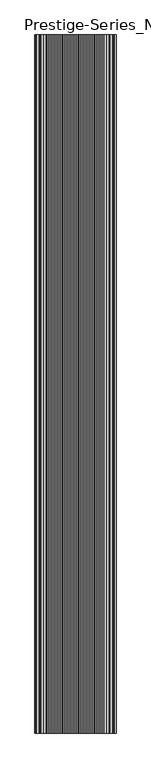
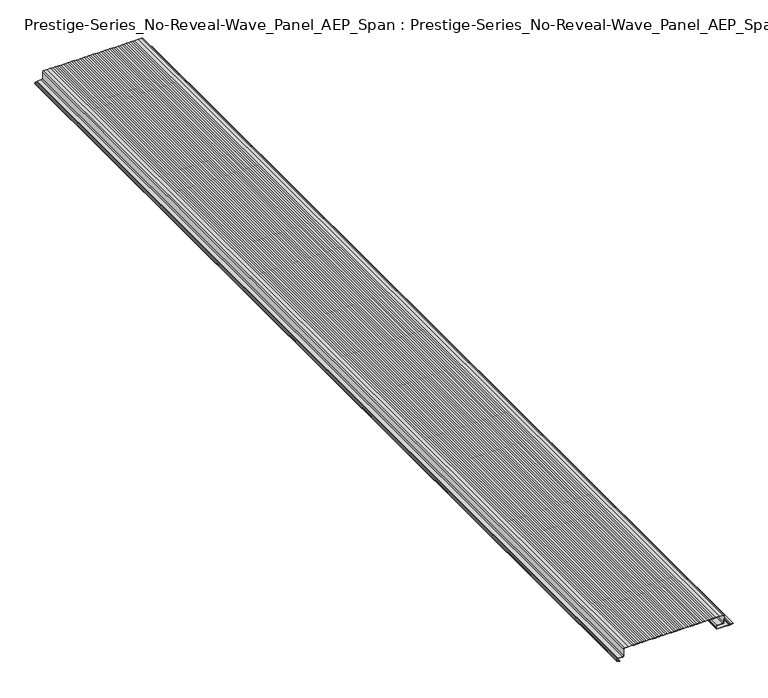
"""IFC4 building model written with IfcOpenShell, lengths in millimetres: proxy geometry, Prestige-Series_No-Reveal-Wave_Panel_AEP_Span : Prestige-Series_No-Reveal-Wave_Panel_AEP_Span."""

from ifc_helpers import new_model, si_unit, frame, origin, place, context, project, spatial, polyline, circle_curve, source, transform, mapped, element, save
from ifc_brep_helpers import plane_surface, cylinder_surface, revolved_surface, advanced_brep


def prestige_series_no_reveal_wave_panel_aep_span_prestige_fcddb1ef(model_context):
    return source(origin(), model_context, "Body", "AdvancedBrep", [
        advanced_brep(
        [(-173.3547211, -3048.0, 3.7242703), (-164.0843346, -3048.0, 0.5644947), (-163.794247, -3048.0, 1.4155751), (-173.0646336, -3048.0, 4.5753508), (-174.5233445, -3048.0, 6.6828416), (-173.0939681, -3048.0, 8.7773217), (-170.2112258, -3048.0, 9.8066494), (-168.3761786, -3048.0, 10.12444), (-155.8368238, -3048.0, 10.12444), (-151.5083197, -3048.0, 14.2412483), (-151.4934924, -3048.0, 33.9789394), (-148.4689658, -3048.0, 37.2008494), (-140.9601251, -3048.0, 37.2008494), (-126.9403091, -3048.0, 37.20084), (-120.5831866, -3048.0, 36.5397007), (-114.2331865, -3048.0, 37.2000979), (-107.8831865, -3048.0, 36.5397007), (-101.5331865, -3048.0, 37.2000979), (-95.1831865, -3048.0, 36.5397007), (-88.8331865, -3048.0, 37.2000979), (-82.4831865, -3048.0, 36.5397007), (-76.1331865, -3048.0, 37.2000979), (-69.7831865, -3048.0, 36.5397007), (-63.4331865, -3048.0, 37.2000979), (-57.0831865, -3048.0, 36.5397007), (-50.7331865, -3048.0, 37.2000979), (-44.3831865, -3048.0, 36.5397007), (-38.0331865, -3048.0, 37.2000979), (-31.6831865, -3048.0, 36.5397007), (-25.3331865, -3048.0, 37.2000979), (-19.0131127, -3048.0, 36.542813), (-12.6631123, -3048.0, 37.2032102), (-6.3128478, -3048.0, 36.5427835), (0.0668183, -3048.0, 37.2143006), (6.4462401, -3048.0, 36.5427857), (12.7667934, -3048.0, 37.2001), (19.1168135, -3048.0, 36.5397007), (25.4668135, -3048.0, 37.2000979), (31.8168135, -3048.0, 36.5397007), (38.1668135, -3048.0, 37.2000979), (44.5168135, -3048.0, 36.5397007), (50.8668135, -3048.0, 37.2000979), (57.2168135, -3048.0, 36.5397007), (63.5668135, -3048.0, 37.2000979), (69.9168135, -3048.0, 36.5397007), (76.2668135, -3048.0, 37.2000979), (82.6168135, -3048.0, 36.5397007), (88.9668135, -3048.0, 37.2000979), (95.3168135, -3048.0, 36.5397007), (101.6668135, -3048.0, 37.2000979), (108.0168135, -3048.0, 36.5397007), (114.3668135, -3048.0, 37.2000979), (120.7168141, -3048.0, 36.5397007), (127.0739185, -3048.0, 37.20084), (138.5429104, -3048.0, 37.20084), (148.4540042, -3048.0, 37.20084), (151.4938626, -3048.0, 33.9974885), (150.4907645, -3048.0, 14.8582693), (147.4509066, -3048.0, 11.97356), (131.7216484, -3048.0, 11.97356), (127.6536799, -3048.0, 7.9055915), (127.6536799, -3048.0, 3.9308085), (131.7216484, -3048.0, -0.13716), (165.2164818, -3048.0, -0.13716), (166.7747019, -3048.0, -0.7731706), (168.6602599, -3048.0, -0.7731706), (170.21848, -3048.0, -0.13716), (174.2421311, -3048.0, -0.13716), (178.968983, -3048.0, 1.1293858), (178.736265, -3048.0, 1.9979081), (174.1237554, -3048.0, 0.762), (170.0420429, -3048.0, 0.762), (168.3228086, -3048.0, 0.0602691), (167.1121532, -3048.0, 0.0602691), (165.3929189, -3048.0, 0.762), (131.7278397, -3048.0, 0.762), (128.5528399, -3048.0, 3.9369998), (128.5528399, -3048.0, 7.8994002), (131.7278397, -3048.0, 11.0744), (147.4567819, -3048.0, 11.0744), (151.3883846, -3048.0, 14.8053411), (152.3921317, -3048.0, 33.9569429), (148.4605284, -3048.0, 38.1), (138.0086514, -3048.0, 38.1), (127.0272879, -3048.0, 38.1), (120.7168139, -3048.0, 37.4437102), (114.3668135, -3048.0, 38.1041074), (108.0168135, -3048.0, 37.4437103), (101.6668135, -3048.0, 38.1041074), (95.3168135, -3048.0, 37.4437103), (88.9668135, -3048.0, 38.1041074), (82.6168135, -3048.0, 37.4437103), (76.2668135, -3048.0, 38.1041074), (69.9168135, -3048.0, 37.4437103), (63.5668135, -3048.0, 38.1041074), (57.2168135, -3048.0, 37.4437103), (50.8668135, -3048.0, 38.1041074), (44.5168135, -3048.0, 37.4437103), (38.1668135, -3048.0, 38.1041074), (31.8168135, -3048.0, 37.4437103), (25.4668135, -3048.0, 38.1041074), (19.1168135, -3048.0, 37.4437103), (12.7667948, -3048.0, 38.1041094), (6.4170563, -3048.0, 37.4437599), (0.0668199, -3048.0, 38.1122027), (-6.2836608, -3048.0, 37.4437576), (-12.6331861, -3048.0, 38.1041075), (-18.9831865, -3048.0, 37.4437103), (-25.3331865, -3048.0, 38.1041074), (-31.6831865, -3048.0, 37.4437103), (-38.0331865, -3048.0, 38.1041074), (-44.3831865, -3048.0, 37.4437103), (-50.7331865, -3048.0, 38.1041074), (-57.0831865, -3048.0, 37.4437103), (-63.4331865, -3048.0, 38.1041074), (-69.7831865, -3048.0, 37.4437103), (-76.1331865, -3048.0, 38.1041074), (-82.4831865, -3048.0, 37.4437103), (-88.8331865, -3048.0, 38.1041074), (-95.1831865, -3048.0, 37.4437103), (-101.5331865, -3048.0, 38.1041074), (-107.8831865, -3048.0, 37.4437103), (-114.2331865, -3048.0, 38.1041074), (-120.5831866, -3048.0, 37.4437102), (-126.8936784, -3048.0, 38.1), (-139.1313617, -3048.0, 38.1), (-148.4689632, -3048.0, 38.1), (-152.3924992, -3048.0, 34.1794109), (-152.4074863, -3048.0, 14.2327776), (-155.8483231, -3048.0, 11.0236), (-168.3772508, -3048.0, 11.0236), (-170.5125782, -3048.0, 10.6538074), (-173.3963302, -3048.0, 9.6241191), (-175.4185197, -3048.0, 6.6814543), (-173.3547211, 0.0, 3.7242703), (-175.4185197, 0.0, 6.6814543), (-173.3963302, 0.0, 9.6241191), (-170.5125782, 0.0, 10.6538074), (-168.3772508, 0.0, 11.0236), (-155.8483231, 0.0, 11.0236), (-152.4074863, 0.0, 14.2327776), (-152.3924992, 0.0, 34.1794109), (-148.4689632, 0.0, 38.1), (-139.1313617, 0.0, 38.1), (-126.8936784, 0.0, 38.1), (-120.5831866, 0.0, 37.4437102), (-114.2331865, 0.0, 38.1041074), (-107.8831865, 0.0, 37.4437103), (-101.5331865, 0.0, 38.1041074), (-95.1831865, 0.0, 37.4437103), (-88.8331865, 0.0, 38.1041074), (-82.4831865, 0.0, 37.4437103), (-76.1331865, 0.0, 38.1041074), (-69.7831865, 0.0, 37.4437103), (-63.4331865, 0.0, 38.1041074), (-57.0831865, 0.0, 37.4437103), (-50.7331865, 0.0, 38.1041074), (-44.3831865, 0.0, 37.4437103), (-38.0331865, 0.0, 38.1041074), (-31.6831865, 0.0, 37.4437103), (-25.3331865, 0.0, 38.1041074), (-18.9831865, 0.0, 37.4437103), (-12.6331861, 0.0, 38.1041075), (-6.2836608, 0.0, 37.4437576), (0.0668199, 0.0, 38.1122027), (6.4170563, 0.0, 37.4437599), (12.7667948, 0.0, 38.1041094), (19.1168135, 0.0, 37.4437103), (25.4668135, 0.0, 38.1041074), (31.8168135, 0.0, 37.4437103), (38.1668135, 0.0, 38.1041074), (44.5168135, 0.0, 37.4437103), (50.8668135, 0.0, 38.1041074), (57.2168135, 0.0, 37.4437103), (63.5668135, 0.0, 38.1041074), (69.9168135, 0.0, 37.4437103), (76.2668135, 0.0, 38.1041074), (82.6168135, 0.0, 37.4437103), (88.9668135, 0.0, 38.1041074), (95.3168135, 0.0, 37.4437103), (101.6668135, 0.0, 38.1041074), (108.0168135, 0.0, 37.4437103), (114.3668135, 0.0, 38.1041074), (120.7168139, 0.0, 37.4437102), (127.0272879, 0.0, 38.1), (138.0086514, 0.0, 38.1), (148.4605284, 0.0, 38.1), (152.3921317, 0.0, 33.9569429), (151.3883846, 0.0, 14.8053411), (147.4567819, 0.0, 11.0744), (131.7278397, 0.0, 11.0744), (128.5528399, 0.0, 7.8994002), (128.5528399, 0.0, 3.9369998), (131.7278397, 0.0, 0.762), (165.3929189, 0.0, 0.762), (167.1121532, 0.0, 0.0602691), (168.3228086, 0.0, 0.0602691), (170.0420429, 0.0, 0.762), (174.1237554, 0.0, 0.762), (178.736265, 0.0, 1.9979081), (178.968983, 0.0, 1.1293858), (174.2421311, 0.0, -0.13716), (170.21848, 0.0, -0.13716), (168.6602599, 0.0, -0.7731706), (166.7747019, 0.0, -0.7731706), (165.2164818, 0.0, -0.13716), (131.7216484, 0.0, -0.13716), (127.6536799, 0.0, 3.9308085), (127.6536799, 0.0, 7.9055915), (131.7216484, 0.0, 11.97356), (147.4509066, 0.0, 11.97356), (150.4907645, 0.0, 14.8582693), (151.4938626, 0.0, 33.9974885), (148.4540042, 0.0, 37.20084), (138.5429104, 0.0, 37.20084), (127.0739185, 0.0, 37.20084), (120.7168141, 0.0, 36.5397007), (114.3668135, 0.0, 37.2000979), (108.0168135, 0.0, 36.5397007), (101.6668135, 0.0, 37.2000979), (95.3168135, 0.0, 36.5397007), (88.9668135, 0.0, 37.2000979), (82.6168135, 0.0, 36.5397007), (76.2668135, 0.0, 37.2000979), (69.9168135, 0.0, 36.5397007), (63.5668135, 0.0, 37.2000979), (57.2168135, 0.0, 36.5397007), (50.8668135, 0.0, 37.2000979), (44.5168135, 0.0, 36.5397007), (38.1668135, 0.0, 37.2000979), (31.8168135, 0.0, 36.5397007), (25.4668135, 0.0, 37.2000979), (19.1168135, 0.0, 36.5397007), (12.7667934, 0.0, 37.2001), (6.4462401, 0.0, 36.5427857), (0.0668183, 0.0, 37.2143006), (-6.3128478, 0.0, 36.5427835), (-12.6631123, 0.0, 37.2032102), (-19.0131127, 0.0, 36.542813), (-25.3331865, 0.0, 37.2000979), (-31.6831865, 0.0, 36.5397007), (-38.0331865, 0.0, 37.2000979), (-44.3831865, 0.0, 36.5397007), (-50.7331865, 0.0, 37.2000979), (-57.0831865, 0.0, 36.5397007), (-63.4331865, 0.0, 37.2000979), (-69.7831865, 0.0, 36.5397007), (-76.1331865, 0.0, 37.2000979), (-82.4831865, 0.0, 36.5397007), (-88.8331865, 0.0, 37.2000979), (-95.1831865, 0.0, 36.5397007), (-101.5331865, 0.0, 37.2000979), (-107.8831865, 0.0, 36.5397007), (-114.2331865, 0.0, 37.2000979), (-120.5831866, 0.0, 36.5397007), (-126.9403091, 0.0, 37.20084), (-140.9601251, 0.0, 37.20084), (-148.4689658, 0.0, 37.2008494), (-151.4934924, 0.0, 33.9789394), (-151.5083197, 0.0, 14.2412483), (-155.8368238, 0.0, 10.12444), (-168.3761786, 0.0, 10.12444), (-170.2112258, 0.0, 9.8066494), (-173.0939681, 0.0, 8.7773217), (-174.5233445, 0.0, 6.6828416), (-173.0646336, 0.0, 4.5753508), (-163.794247, 0.0, 1.4155751), (-164.0843346, 0.0, 0.5644947)],
        [
            (0, 1),
            (1, 2),
            (2, 3),
            (3, 4, circle_curve(frame((-172.369376, -3048.0, 6.6151497), z_axis=(0.0, 1.0, 0.0), x_axis=(1.0, 0.0, 0.0)), 2.155032)),
            (4, 5, circle_curve(frame((-172.3692918, -3048.0, 6.7477884), z_axis=(0.0, 1.0, 0.0), x_axis=(1.0, 0.0, 0.0)), 2.1550316)),
            (5, 6),
            (6, 7, circle_curve(frame((-168.3761786, -3048.0, 4.6674035), z_axis=(0.0, 1.0, 0.0), x_axis=(1.0, 0.0, 0.0)), 5.4570365)),
            (7, 8),
            (8, 9, circle_curve(frame((-155.9462867, -3048.0, 14.5734787), z_axis=(0.0, -1.0, 0.0), x_axis=(1.0, 0.0, 0.0)), 4.4503851)),
            (9, 10),
            (10, 11, circle_curve(frame((-148.4689658, -3048.0, 34.1702766), z_axis=(0.0, 1.0, 0.0), x_axis=(1.0, 0.0, 0.0)), 3.0305728)),
            (11, 12),
            (12, 13),
            (13, 14),
            (14, 15),
            (15, 16),
            (16, 17),
            (17, 18),
            (18, 19),
            (19, 20),
            (20, 21),
            (21, 22),
            (22, 23),
            (23, 24),
            (24, 25),
            (25, 26),
            (26, 27),
            (27, 28),
            (28, 29),
            (29, 30),
            (30, 31),
            (31, 32),
            (32, 33),
            (33, 34),
            (34, 35),
            (35, 36),
            (36, 37),
            (37, 38),
            (38, 39),
            (39, 40),
            (40, 41),
            (41, 42),
            (42, 43),
            (43, 44),
            (44, 45),
            (45, 46),
            (46, 47),
            (47, 48),
            (48, 49),
            (49, 50),
            (50, 51),
            (51, 52),
            (52, 53),
            (53, 54),
            (54, 55),
            (55, 56, circle_curve(frame((148.4540042, -3048.0, 34.1568093), z_axis=(0.0, 1.0, 0.0), x_axis=(1.0, 0.0, 0.0)), 3.0440307)),
            (56, 57),
            (57, 58, circle_curve(frame((147.4509066, -3048.0, 15.0175901), z_axis=(0.0, 1.0, 0.0), x_axis=(1.0, 0.0, 0.0)), 3.0440301)),
            (58, 59),
            (59, 60, circle_curve(frame((131.7216484, -3048.0, 7.9055915), z_axis=(0.0, -1.0, 0.0), x_axis=(1.0, 0.0, 0.0)), 4.0679685)),
            (60, 61),
            (61, 62, circle_curve(frame((131.7216484, -3048.0, 3.9308085), z_axis=(0.0, -1.0, 0.0), x_axis=(1.0, 0.0, 0.0)), 4.0679685)),
            (62, 63),
            (63, 64),
            (64, 65, circle_curve(frame((167.7174809, -3048.0, 1.5366294), z_axis=(0.0, -1.0, 0.0), x_axis=(1.0, 0.0, 0.0)), 2.4947962)),
            (65, 66),
            (66, 67),
            (67, 68),
            (68, 69),
            (69, 70),
            (70, 71),
            (71, 72),
            (72, 73, circle_curve(frame((167.7174809, -3048.0, 1.5433165), z_axis=(0.0, 1.0, 0.0), x_axis=(1.0, 0.0, 0.0)), 1.6018275)),
            (73, 74),
            (74, 75),
            (75, 76, circle_curve(frame((131.7278397, -3048.0, 3.9369998), z_axis=(0.0, 1.0, 0.0), x_axis=(1.0, 0.0, 0.0)), 3.1749998)),
            (76, 77),
            (77, 78, circle_curve(frame((131.7278397, -3048.0, 7.8994002), z_axis=(0.0, 1.0, 0.0), x_axis=(1.0, 0.0, 0.0)), 3.1749998)),
            (78, 79),
            (79, 80, circle_curve(frame((147.4567819, -3048.0, 15.0113988), z_axis=(0.0, -1.0, 0.0), x_axis=(1.0, 0.0, 0.0)), 3.9369988)),
            (80, 81),
            (81, 82, circle_curve(frame((148.4605284, -3048.0, 34.1630006), z_axis=(0.0, -1.0, 0.0), x_axis=(1.0, 0.0, 0.0)), 3.9369994)),
            (82, 83),
            (83, 84),
            (84, 85),
            (85, 86),
            (86, 87),
            (87, 88),
            (88, 89),
            (89, 90),
            (90, 91),
            (91, 92),
            (92, 93),
            (93, 94),
            (94, 95),
            (95, 96),
            (96, 97),
            (97, 98),
            (98, 99),
            (99, 100),
            (100, 101),
            (101, 102),
            (102, 103),
            (103, 104),
            (104, 105),
            (105, 106),
            (106, 107),
            (107, 108),
            (108, 109),
            (109, 110),
            (110, 111),
            (111, 112),
            (112, 113),
            (113, 114),
            (114, 115),
            (115, 116),
            (116, 117),
            (117, 118),
            (118, 119),
            (119, 120),
            (120, 121),
            (121, 122),
            (122, 123),
            (123, 124),
            (124, 125),
            (125, 126),
            (126, 127, circle_curve(frame((-148.4689632, -3048.0, 34.1764629), z_axis=(0.0, -1.0, 0.0), x_axis=(1.0, 0.0, 0.0)), 3.9235371)),
            (127, 128),
            (128, 129, circle_curve(frame((-155.94528, -3048.0, 14.576754), z_axis=(0.0, 1.0, 0.0), x_axis=(1.0, 0.0, 0.0)), 3.5544766)),
            (129, 130),
            (130, 131, circle_curve(frame((-168.3772508, -3048.0, 4.6735948), z_axis=(0.0, -1.0, 0.0), x_axis=(1.0, 0.0, 0.0)), 6.3500052)),
            (131, 132),
            (132, 133, circle_curve(frame((-172.3713738, -3048.0, 6.7536191), z_axis=(0.0, -1.0, 0.0), x_axis=(1.0, 0.0, 0.0)), 3.0480004)),
            (133, 0, circle_curve(frame((-172.3713734, -3048.0, 6.6092895), z_axis=(0.0, -1.0, 0.0), x_axis=(1.0, 0.0, 0.0)), 3.0480007)),
            (134, 135, circle_curve(frame((-172.3713734, 0.0, 6.6092895), z_axis=(0.0, 1.0, 0.0), x_axis=(1.0, 0.0, 0.0)), 3.0480007)),
            (135, 136, circle_curve(frame((-172.3713738, 0.0, 6.7536191), z_axis=(0.0, 1.0, 0.0), x_axis=(1.0, 0.0, 0.0)), 3.0480004)),
            (136, 137),
            (137, 138, circle_curve(frame((-168.3772508, 0.0, 4.6735948), z_axis=(0.0, 1.0, 0.0), x_axis=(1.0, 0.0, 0.0)), 6.3500052)),
            (138, 139),
            (139, 140, circle_curve(frame((-155.94528, 0.0, 14.576754), z_axis=(0.0, -1.0, 0.0), x_axis=(1.0, 0.0, 0.0)), 3.5544766)),
            (140, 141),
            (141, 142, circle_curve(frame((-148.4689632, 0.0, 34.1764629), z_axis=(0.0, 1.0, 0.0), x_axis=(1.0, 0.0, 0.0)), 3.9235371)),
            (142, 143),
            (143, 144),
            (144, 145),
            (145, 146),
            (146, 147),
            (147, 148),
            (148, 149),
            (149, 150),
            (150, 151),
            (151, 152),
            (152, 153),
            (153, 154),
            (154, 155),
            (155, 156),
            (156, 157),
            (157, 158),
            (158, 159),
            (159, 160),
            (160, 161),
            (161, 162),
            (162, 163),
            (163, 164),
            (164, 165),
            (165, 166),
            (166, 167),
            (167, 168),
            (168, 169),
            (169, 170),
            (170, 171),
            (171, 172),
            (172, 173),
            (173, 174),
            (174, 175),
            (175, 176),
            (176, 177),
            (177, 178),
            (178, 179),
            (179, 180),
            (180, 181),
            (181, 182),
            (182, 183),
            (183, 184),
            (184, 185),
            (185, 186),
            (186, 187, circle_curve(frame((148.4605284, 0.0, 34.1630006), z_axis=(0.0, 1.0, 0.0), x_axis=(1.0, 0.0, 0.0)), 3.9369994)),
            (187, 188),
            (188, 189, circle_curve(frame((147.4567819, 0.0, 15.0113988), z_axis=(0.0, 1.0, 0.0), x_axis=(1.0, 0.0, 0.0)), 3.9369988)),
            (189, 190),
            (190, 191, circle_curve(frame((131.7278397, 0.0, 7.8994002), z_axis=(0.0, -1.0, 0.0), x_axis=(1.0, 0.0, 0.0)), 3.1749998)),
            (191, 192),
            (192, 193, circle_curve(frame((131.7278397, 0.0, 3.9369998), z_axis=(0.0, -1.0, 0.0), x_axis=(1.0, 0.0, 0.0)), 3.1749998)),
            (193, 194),
            (194, 195),
            (195, 196, circle_curve(frame((167.7174809, 0.0, 1.5433165), z_axis=(0.0, -1.0, 0.0), x_axis=(1.0, 0.0, 0.0)), 1.6018275)),
            (196, 197),
            (197, 198),
            (198, 199),
            (199, 200),
            (200, 201),
            (201, 202),
            (202, 203),
            (203, 204, circle_curve(frame((167.7174809, 0.0, 1.5366294), z_axis=(0.0, 1.0, 0.0), x_axis=(1.0, 0.0, 0.0)), 2.4947962)),
            (204, 205),
            (205, 206),
            (206, 207, circle_curve(frame((131.7216484, 0.0, 3.9308085), z_axis=(0.0, 1.0, 0.0), x_axis=(1.0, 0.0, 0.0)), 4.0679685)),
            (207, 208),
            (208, 209, circle_curve(frame((131.7216484, 0.0, 7.9055915), z_axis=(0.0, 1.0, 0.0), x_axis=(1.0, 0.0, 0.0)), 4.0679685)),
            (209, 210),
            (210, 211, circle_curve(frame((147.4509066, 0.0, 15.0175901), z_axis=(0.0, -1.0, 0.0), x_axis=(1.0, 0.0, 0.0)), 3.0440301)),
            (211, 212),
            (212, 213, circle_curve(frame((148.4540042, 0.0, 34.1568093), z_axis=(0.0, -1.0, 0.0), x_axis=(1.0, 0.0, 0.0)), 3.0440307)),
            (213, 214),
            (214, 215),
            (215, 216),
            (216, 217),
            (217, 218),
            (218, 219),
            (219, 220),
            (220, 221),
            (221, 222),
            (222, 223),
            (223, 224),
            (224, 225),
            (225, 226),
            (226, 227),
            (227, 228),
            (228, 229),
            (229, 230),
            (230, 231),
            (231, 232),
            (232, 233),
            (233, 234),
            (234, 235),
            (235, 236),
            (236, 237),
            (237, 238),
            (238, 239),
            (239, 240),
            (240, 241),
            (241, 242),
            (242, 243),
            (243, 244),
            (244, 245),
            (245, 246),
            (246, 247),
            (247, 248),
            (248, 249),
            (249, 250),
            (250, 251),
            (251, 252),
            (252, 253),
            (253, 254),
            (254, 255),
            (255, 256),
            (256, 257),
            (257, 258, circle_curve(frame((-148.4689658, 0.0, 34.1702766), z_axis=(0.0, -1.0, 0.0), x_axis=(1.0, 0.0, 0.0)), 3.0305728)),
            (258, 259),
            (259, 260, circle_curve(frame((-155.9462867, 0.0, 14.5734787), z_axis=(0.0, 1.0, 0.0), x_axis=(1.0, 0.0, 0.0)), 4.4503851)),
            (260, 261),
            (261, 262, circle_curve(frame((-168.3761786, 0.0, 4.6674035), z_axis=(0.0, -1.0, 0.0), x_axis=(1.0, 0.0, 0.0)), 5.4570365)),
            (262, 263),
            (263, 264, circle_curve(frame((-172.3692918, 0.0, 6.7477884), z_axis=(0.0, -1.0, 0.0), x_axis=(1.0, 0.0, 0.0)), 2.1550316)),
            (264, 265, circle_curve(frame((-172.369376, 0.0, 6.6151497), z_axis=(0.0, -1.0, 0.0), x_axis=(1.0, 0.0, 0.0)), 2.155032)),
            (265, 266),
            (266, 267),
            (267, 134),
            (0, 134),
            (267, 1),
            (266, 2),
            (265, 3),
            (264, 4),
            (263, 5),
            (262, 6),
            (261, 7),
            (260, 8),
            (259, 9),
            (10, 258),
            (257, 11),
            (54, 214),
            (213, 55),
            (212, 56),
            (211, 57),
            (210, 58),
            (209, 59),
            (208, 60),
            (207, 61),
            (206, 62),
            (205, 63),
            (204, 64),
            (203, 65),
            (202, 66),
            (201, 67),
            (200, 68),
            (199, 69),
            (198, 70),
            (197, 71),
            (196, 72),
            (195, 73),
            (194, 74),
            (193, 75),
            (192, 76),
            (191, 77),
            (190, 78),
            (189, 79),
            (188, 80),
            (187, 81),
            (186, 82),
            (125, 143),
            (142, 126),
            (141, 127),
            (140, 128),
            (139, 129),
            (138, 130),
            (137, 131),
            (136, 132),
            (135, 133),
            (256, 12),
            (255, 13),
            (254, 14),
            (253, 15),
            (252, 16),
            (251, 17),
            (250, 18),
            (249, 19),
            (248, 20),
            (247, 21),
            (246, 22),
            (245, 23),
            (244, 24),
            (243, 25),
            (242, 26),
            (241, 27),
            (240, 28),
            (239, 29),
            (238, 30),
            (237, 31),
            (236, 32),
            (235, 33),
            (234, 34),
            (233, 35),
            (232, 36),
            (231, 37),
            (230, 38),
            (229, 39),
            (228, 40),
            (227, 41),
            (226, 42),
            (225, 43),
            (224, 44),
            (223, 45),
            (222, 46),
            (221, 47),
            (220, 48),
            (219, 49),
            (218, 50),
            (217, 51),
            (216, 52),
            (215, 53),
            (185, 83),
            (184, 84),
            (183, 85),
            (182, 86),
            (181, 87),
            (180, 88),
            (179, 89),
            (178, 90),
            (177, 91),
            (176, 92),
            (175, 93),
            (174, 94),
            (173, 95),
            (172, 96),
            (171, 97),
            (170, 98),
            (169, 99),
            (168, 100),
            (167, 101),
            (166, 102),
            (165, 103),
            (164, 104),
            (163, 105),
            (162, 106),
            (161, 107),
            (160, 108),
            (159, 109),
            (158, 110),
            (157, 111),
            (156, 112),
            (155, 113),
            (154, 114),
            (153, 115),
            (152, 116),
            (151, 117),
            (150, 118),
            (149, 119),
            (148, 120),
            (147, 121),
            (146, 122),
            (145, 123),
            (144, 124),
        ],
        [
            plane_surface(frame((-164.0843346, -3048.0, 0.5644947), z_axis=(0.0, -1.0, 0.0), x_axis=(0.9465283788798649, 0.0, -0.32262056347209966))),
            plane_surface(frame((-164.0843346, 0.0, 0.5644947), z_axis=(0.0, 1.0, 0.0), x_axis=(-0.9465283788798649, 0.0, 0.32262056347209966))),
            plane_surface(frame((-173.3547211, -3048.0, 3.7242703), z_axis=(-0.32262056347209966, 0.0, -0.9465283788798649), x_axis=(0.0, 1.0, 0.0))),
            plane_surface(frame((-164.0843346, -3048.0, 0.5644947), z_axis=(0.9465283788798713, 0.0, -0.32262056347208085), x_axis=(0.0, 1.0, 0.0))),
            plane_surface(frame((-163.794247, -3048.0, 1.4155751), z_axis=(0.3226205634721, 0.0, 0.9465283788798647), x_axis=(0.0, 1.0, 0.0))),
            revolved_surface(polyline([(-170.21434399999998, 0.0, 6.6151497), (-170.21434399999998, -3048.0, 6.6151497)]), (-172.369376, 0.0, 6.6151497), (0.0, 1.0, 0.0)),
            revolved_surface(polyline([(-170.2142602, 0.0, 6.7477884), (-170.2142602, -3048.0, 6.7477884)]), (-172.3692918, 0.0, 6.7477884), (0.0, 1.0, 0.0)),
            plane_surface(frame((-173.0939681, -3048.0, 8.7773217), z_axis=(0.3362717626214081, 0.0, -0.9417649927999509), x_axis=(0.0, 1.0, 0.0))),
            revolved_surface(polyline([(-162.91914210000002, 0.0, 4.6674035), (-162.91914210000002, -3048.0, 4.6674035)]), (-168.3761786, 0.0, 4.6674035), (0.0, 1.0, 0.0)),
            plane_surface(frame((-168.3761786, -3048.0, 10.12444), z_axis=(0.0, 0.0, -1.0), x_axis=(0.0, 1.0, 0.0))),
            cylinder_surface(frame((-155.9462867, 0.0, 14.5734787), z_axis=(0.0, -1.0, 0.0), x_axis=(1.0, 0.0, 0.0)), 4.4503851),
            revolved_surface(polyline([(-145.43839300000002, 0.0, 34.1702766), (-145.43839300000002, -3048.0, 34.1702766)]), (-148.4689658, 0.0, 34.1702766), (0.0, 1.0, 0.0)),
            plane_surface(frame((138.5429104, -3048.0, 37.20084), z_axis=(0.0, 0.0, -1.0), x_axis=(0.0, 1.0, 0.0))),
            revolved_surface(polyline([(151.49803490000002, 0.0, 34.1568093), (151.49803490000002, -3048.0, 34.1568093)]), (148.4540042, 0.0, 34.1568093), (0.0, 1.0, 0.0)),
            plane_surface(frame((151.4938626, -3048.0, 33.9974885), z_axis=(-0.9986293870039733, 0.0, 0.05233877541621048), x_axis=(0.0, 1.0, 0.0))),
            revolved_surface(polyline([(150.49493669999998, 0.0, 15.0175901), (150.49493669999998, -3048.0, 15.0175901)]), (147.4509066, 0.0, 15.0175901), (0.0, 1.0, 0.0)),
            plane_surface(frame((147.4509066, -3048.0, 11.97356), z_axis=(0.0, 0.0, 1.0), x_axis=(0.0, 1.0, 0.0))),
            cylinder_surface(frame((131.7216484, 0.0, 7.9055915), z_axis=(0.0, -1.0, 0.0), x_axis=(1.0, 0.0, 0.0)), 4.0679685),
            plane_surface(frame((127.6536799, -3048.0, 7.9055915), z_axis=(-1.0, 0.0, 0.0), x_axis=(0.0, 1.0, 0.0))),
            cylinder_surface(frame((131.7216484, 0.0, 3.9308085), z_axis=(0.0, -1.0, 0.0), x_axis=(1.0, 0.0, 0.0)), 4.0679685),
            plane_surface(frame((131.7216484, -3048.0, -0.13716), z_axis=(0.0, 0.0, -1.0), x_axis=(0.0, 1.0, 0.0))),
            plane_surface(frame((165.2164818, -3048.0, -0.13716), z_axis=(-0.3778982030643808, 0.0, -0.9258471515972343), x_axis=(0.0, 1.0, 0.0))),
            cylinder_surface(frame((167.7174809, 0.0, 1.5366294), z_axis=(0.0, -1.0, 0.0), x_axis=(1.0, 0.0, 0.0)), 2.4947962),
            plane_surface(frame((168.6602599, -3048.0, -0.7731706), z_axis=(0.3778982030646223, 0.0, -0.9258471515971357), x_axis=(0.0, 1.0, 0.0))),
            plane_surface(frame((170.21848, -3048.0, -0.13716), z_axis=(0.0, 0.0, -1.0), x_axis=(0.0, 1.0, 0.0))),
            plane_surface(frame((174.2421311, -3048.0, -0.13716), z_axis=(0.25881706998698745, 0.0, -0.965926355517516), x_axis=(0.0, 1.0, 0.0))),
            plane_surface(frame((178.968983, -3048.0, 1.1293858), z_axis=(0.965926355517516, 0.0, 0.2588170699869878), x_axis=(0.0, 1.0, 0.0))),
            plane_surface(frame((178.736265, -3048.0, 1.9979081), z_axis=(-0.258817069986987, 0.0, 0.9659263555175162), x_axis=(0.0, 1.0, 0.0))),
            plane_surface(frame((174.1237554, -3048.0, 0.762), z_axis=(0.0, 0.0, 1.0), x_axis=(0.0, 1.0, 0.0))),
            plane_surface(frame((170.0420429, -3048.0, 0.762), z_axis=(-0.3778982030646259, 0.0, 0.9258471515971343), x_axis=(0.0, 1.0, 0.0))),
            revolved_surface(polyline([(169.3193084, 0.0, 1.5433165), (169.3193084, -3048.0, 1.5433165)]), (167.7174809, 0.0, 1.5433165), (0.0, 1.0, 0.0)),
            plane_surface(frame((167.1121532, -3048.0, 0.0602691), z_axis=(0.37789820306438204, 0.0, 0.9258471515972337), x_axis=(0.0, 1.0, 0.0))),
            plane_surface(frame((165.3929189, -3048.0, 0.762), z_axis=(0.0, 0.0, 1.0), x_axis=(0.0, 1.0, 0.0))),
            revolved_surface(polyline([(134.9028395, 0.0, 3.9369998), (134.9028395, -3048.0, 3.9369998)]), (131.7278397, 0.0, 3.9369998), (0.0, 1.0, 0.0)),
            plane_surface(frame((128.5528399, -3048.0, 3.9369998), z_axis=(1.0, 0.0, 0.0), x_axis=(0.0, 1.0, 0.0))),
            revolved_surface(polyline([(134.9028395, 0.0, 7.8994002), (134.9028395, -3048.0, 7.8994002)]), (131.7278397, 0.0, 7.8994002), (0.0, 1.0, 0.0)),
            plane_surface(frame((131.7278397, -3048.0, 11.0744), z_axis=(0.0, 0.0, -1.0), x_axis=(0.0, 1.0, 0.0))),
            cylinder_surface(frame((147.4567819, 0.0, 15.0113988), z_axis=(0.0, -1.0, 0.0), x_axis=(1.0, 0.0, 0.0)), 3.9369988),
            plane_surface(frame((151.3883846, -3048.0, 14.8053411), z_axis=(0.9986293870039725, 0.0, -0.05233877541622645), x_axis=(0.0, 1.0, 0.0))),
            cylinder_surface(frame((148.4605284, 0.0, 34.1630006), z_axis=(0.0, -1.0, 0.0), x_axis=(1.0, 0.0, 0.0)), 3.9369994),
            plane_surface(frame((-139.1313617, -3048.0, 38.1), z_axis=(0.0, 0.0, 1.0), x_axis=(0.0, 1.0, 0.0))),
            cylinder_surface(frame((-148.4689632, 0.0, 34.1764629), z_axis=(0.0, -1.0, 0.0), x_axis=(1.0, 0.0, 0.0)), 3.9235371),
            plane_surface(frame((-152.3924992, -3048.0, 34.1794109), z_axis=(-0.9999997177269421, 0.0, 0.0007513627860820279), x_axis=(0.0, 1.0, 0.0))),
            revolved_surface(polyline([(-152.3908034, 0.0, 14.576754), (-152.3908034, -3048.0, 14.576754)]), (-155.94528, 0.0, 14.576754), (0.0, 1.0, 0.0)),
            plane_surface(frame((-155.8483231, -3048.0, 11.0236), z_axis=(0.0, 0.0, 1.0), x_axis=(0.0, 1.0, 0.0))),
            cylinder_surface(frame((-168.3772508, 0.0, 4.6735948), z_axis=(0.0, -1.0, 0.0), x_axis=(1.0, 0.0, 0.0)), 6.3500052),
            plane_surface(frame((-170.5125782, -3048.0, 10.6538074), z_axis=(-0.33627176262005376, 0.0, 0.9417649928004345), x_axis=(0.0, 1.0, 0.0))),
            cylinder_surface(frame((-172.3713738, 0.0, 6.7536191), z_axis=(0.0, -1.0, 0.0), x_axis=(1.0, 0.0, 0.0)), 3.0480004),
            cylinder_surface(frame((-172.3713734, 0.0, 6.6092895), z_axis=(0.0, -1.0, 0.0), x_axis=(1.0, 0.0, 0.0)), 3.0480007),
            plane_surface(frame((-151.5083197, -3048.0, 14.2412483), z_axis=(0.9999997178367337, 0.0, -0.0007512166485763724), x_axis=(0.0, 1.0, 0.0))),
            plane_surface(frame((-148.4689658, -3048.0, 37.2008494), z_axis=(0.0, 0.0, -1.0), x_axis=(0.0, 1.0, 0.0))),
            plane_surface(frame((-140.9601251, -3048.0, 37.20084), z_axis=(0.0, 0.0, -1.0), x_axis=(0.0, 1.0, 0.0))),
            plane_surface(frame((-126.9403091, -3048.0, 37.20084), z_axis=(-0.10344186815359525, 0.0, -0.9946355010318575), x_axis=(0.0, 1.0, 0.0))),
            plane_surface(frame((-120.5831866, -3048.0, 36.5397007), z_axis=(0.1034416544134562, 0.0, -0.9946355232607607), x_axis=(0.0, 1.0, 0.0))),
            plane_surface(frame((-114.2331865, -3048.0, 37.2000979), z_axis=(-0.10344165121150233, 0.0, -0.9946355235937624), x_axis=(0.0, 1.0, 0.0))),
            plane_surface(frame((-107.8831865, -3048.0, 36.5397007), z_axis=(0.10344165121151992, 0.0, -0.9946355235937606), x_axis=(0.0, 1.0, 0.0))),
            plane_surface(frame((-101.5331865, -3048.0, 37.2000979), z_axis=(-0.10344165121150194, 0.0, -0.9946355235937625), x_axis=(0.0, 1.0, 0.0))),
            plane_surface(frame((-95.1831865, -3048.0, 36.5397007), z_axis=(0.10344165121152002, 0.0, -0.9946355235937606), x_axis=(0.0, 1.0, 0.0))),
            plane_surface(frame((-88.8331865, -3048.0, 37.2000979), z_axis=(-0.10344165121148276, 0.0, -0.9946355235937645), x_axis=(0.0, 1.0, 0.0))),
            plane_surface(frame((-82.4831865, -3048.0, 36.5397007), z_axis=(0.10344165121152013, 0.0, -0.9946355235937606), x_axis=(0.0, 1.0, 0.0))),
            plane_surface(frame((-76.1331865, -3048.0, 37.2000979), z_axis=(-0.10344165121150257, 0.0, -0.9946355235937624), x_axis=(0.0, 1.0, 0.0))),
            plane_surface(frame((-69.7831865, -3048.0, 36.5397007), z_axis=(0.10344165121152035, 0.0, -0.9946355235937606), x_axis=(0.0, 1.0, 0.0))),
            plane_surface(frame((-63.4331865, -3048.0, 37.2000979), z_axis=(-0.1034416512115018, 0.0, -0.9946355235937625), x_axis=(0.0, 1.0, 0.0))),
            plane_surface(frame((-57.0831865, -3048.0, 36.5397007), z_axis=(0.10344165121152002, 0.0, -0.9946355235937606), x_axis=(0.0, 1.0, 0.0))),
            plane_surface(frame((-50.7331865, -3048.0, 37.2000979), z_axis=(-0.1034416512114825, 0.0, -0.9946355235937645), x_axis=(0.0, 1.0, 0.0))),
            plane_surface(frame((-44.3831865, -3048.0, 36.5397007), z_axis=(0.10344165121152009, 0.0, -0.9946355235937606), x_axis=(0.0, 1.0, 0.0))),
            plane_surface(frame((-38.0331865, -3048.0, 37.2000979), z_axis=(-0.103441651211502, 0.0, -0.9946355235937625), x_axis=(0.0, 1.0, 0.0))),
            plane_surface(frame((-31.6831865, -3048.0, 36.5397007), z_axis=(0.10344165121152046, 0.0, -0.9946355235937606), x_axis=(0.0, 1.0, 0.0))),
            plane_surface(frame((-25.3331865, -3048.0, 37.2000979), z_axis=(-0.10344165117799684, 0.0, -0.994635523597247), x_axis=(0.0, 1.0, 0.0))),
            plane_surface(frame((-19.0131127, -3048.0, 36.542813), z_axis=(0.10344164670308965, 0.0, -0.9946355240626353), x_axis=(0.0, 1.0, 0.0))),
            plane_surface(frame((-12.6631123, -3048.0, 37.2032102), z_axis=(-0.10344196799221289, 0.0, -0.9946354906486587), x_axis=(0.0, 1.0, 0.0))),
            plane_surface(frame((-6.3128478, -3048.0, 36.5427835), z_axis=(0.10468066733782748, 0.0, -0.9945058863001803), x_axis=(0.0, 1.0, 0.0))),
            plane_surface(frame((0.0668183, -3048.0, 37.2143006), z_axis=(-0.10468430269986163, 0.0, -0.9945055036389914), x_axis=(0.0, 1.0, 0.0))),
            plane_surface(frame((6.4462401, -3048.0, 36.5427857), z_axis=(0.1034384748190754, 0.0, -0.9946358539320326), x_axis=(0.0, 1.0, 0.0))),
            plane_surface(frame((12.7667934, -3048.0, 37.2001), z_axis=(-0.10344165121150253, 0.0, -0.9946355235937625), x_axis=(0.0, 1.0, 0.0))),
            plane_surface(frame((19.1168135, -3048.0, 36.5397007), z_axis=(0.10344165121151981, 0.0, -0.9946355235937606), x_axis=(0.0, 1.0, 0.0))),
            plane_surface(frame((25.4668135, -3048.0, 37.2000979), z_axis=(-0.10344165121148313, 0.0, -0.9946355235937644), x_axis=(0.0, 1.0, 0.0))),
            plane_surface(frame((31.8168135, -3048.0, 36.5397007), z_axis=(0.10344165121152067, 0.0, -0.9946355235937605), x_axis=(0.0, 1.0, 0.0))),
            plane_surface(frame((38.1668135, -3048.0, 37.2000979), z_axis=(-0.1034416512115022, 0.0, -0.9946355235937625), x_axis=(0.0, 1.0, 0.0))),
            plane_surface(frame((44.5168135, -3048.0, 36.5397007), z_axis=(0.10344165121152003, 0.0, -0.9946355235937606), x_axis=(0.0, 1.0, 0.0))),
            plane_surface(frame((50.8668135, -3048.0, 37.2000979), z_axis=(-0.10344165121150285, 0.0, -0.9946355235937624), x_axis=(0.0, 1.0, 0.0))),
            plane_surface(frame((57.2168135, -3048.0, 36.5397007), z_axis=(0.10344165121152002, 0.0, -0.9946355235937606), x_axis=(0.0, 1.0, 0.0))),
            plane_surface(frame((63.5668135, -3048.0, 37.2000979), z_axis=(-0.1034416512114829, 0.0, -0.9946355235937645), x_axis=(0.0, 1.0, 0.0))),
            plane_surface(frame((69.9168135, -3048.0, 36.5397007), z_axis=(0.10344165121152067, 0.0, -0.9946355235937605), x_axis=(0.0, 1.0, 0.0))),
            plane_surface(frame((76.2668135, -3048.0, 37.2000979), z_axis=(-0.10344165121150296, 0.0, -0.9946355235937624), x_axis=(0.0, 1.0, 0.0))),
            plane_surface(frame((82.6168135, -3048.0, 36.5397007), z_axis=(0.10344165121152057, 0.0, -0.9946355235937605), x_axis=(0.0, 1.0, 0.0))),
            plane_surface(frame((88.9668135, -3048.0, 37.2000979), z_axis=(-0.10344165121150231, 0.0, -0.9946355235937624), x_axis=(0.0, 1.0, 0.0))),
            plane_surface(frame((95.3168135, -3048.0, 36.5397007), z_axis=(0.10344165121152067, 0.0, -0.9946355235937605), x_axis=(0.0, 1.0, 0.0))),
            plane_surface(frame((101.6668135, -3048.0, 37.2000979), z_axis=(-0.10344165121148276, 0.0, -0.9946355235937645), x_axis=(0.0, 1.0, 0.0))),
            plane_surface(frame((108.0168135, -3048.0, 36.5397007), z_axis=(0.10344165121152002, 0.0, -0.9946355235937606), x_axis=(0.0, 1.0, 0.0))),
            plane_surface(frame((114.3668135, -3048.0, 37.2000979), z_axis=(-0.10344165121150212, 0.0, -0.9946355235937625), x_axis=(0.0, 1.0, 0.0))),
            plane_surface(frame((120.7168141, -3048.0, 36.5397007), z_axis=(0.10344216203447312, 0.0, -0.9946354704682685), x_axis=(0.0, 1.0, 0.0))),
            plane_surface(frame((127.0739185, -3048.0, 37.20084), z_axis=(5.523391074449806e-12, 0.0, -1.0), x_axis=(0.0, 1.0, 0.0))),
            plane_surface(frame((148.4605284, -3048.0, 38.1), z_axis=(-6.060894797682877e-12, 0.0, 1.0), x_axis=(0.0, 1.0, 0.0))),
            plane_surface(frame((138.0086514, -3048.0, 38.1), z_axis=(0.0, 0.0, 1.0), x_axis=(0.0, 1.0, 0.0))),
            plane_surface(frame((127.0272879, -3048.0, 38.1), z_axis=(-0.10344216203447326, 0.0, 0.9946354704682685), x_axis=(0.0, 1.0, 0.0))),
            plane_surface(frame((120.7168139, -3048.0, 37.4437102), z_axis=(0.10344165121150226, 0.0, 0.9946355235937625), x_axis=(0.0, 1.0, 0.0))),
            plane_surface(frame((114.3668135, -3048.0, 38.1041074), z_axis=(-0.10344165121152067, 0.0, 0.9946355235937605), x_axis=(0.0, 1.0, 0.0))),
            plane_surface(frame((108.0168135, -3048.0, 37.4437103), z_axis=(0.10344165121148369, 0.0, 0.9946355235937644), x_axis=(0.0, 1.0, 0.0))),
            plane_surface(frame((101.6668135, -3048.0, 38.1041074), z_axis=(-0.10344165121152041, 0.0, 0.9946355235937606), x_axis=(0.0, 1.0, 0.0))),
            plane_surface(frame((95.3168135, -3048.0, 37.4437103), z_axis=(0.10344165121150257, 0.0, 0.9946355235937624), x_axis=(0.0, 1.0, 0.0))),
            plane_surface(frame((88.9668135, -3048.0, 38.1041074), z_axis=(-0.10344165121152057, 0.0, 0.9946355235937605), x_axis=(0.0, 1.0, 0.0))),
            plane_surface(frame((82.6168135, -3048.0, 37.4437103), z_axis=(0.10344165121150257, 0.0, 0.9946355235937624), x_axis=(0.0, 1.0, 0.0))),
            plane_surface(frame((76.2668135, -3048.0, 38.1041074), z_axis=(-0.10344165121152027, 0.0, 0.9946355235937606), x_axis=(0.0, 1.0, 0.0))),
            plane_surface(frame((69.9168135, -3048.0, 37.4437103), z_axis=(0.10344165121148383, 0.0, 0.9946355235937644), x_axis=(0.0, 1.0, 0.0))),
            plane_surface(frame((63.5668135, -3048.0, 38.1041074), z_axis=(-0.10344165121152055, 0.0, 0.9946355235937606), x_axis=(0.0, 1.0, 0.0))),
            plane_surface(frame((57.2168135, -3048.0, 37.4437103), z_axis=(0.10344165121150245, 0.0, 0.9946355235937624), x_axis=(0.0, 1.0, 0.0))),
            plane_surface(frame((50.8668135, -3048.0, 38.1041074), z_axis=(-0.10344165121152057, 0.0, 0.9946355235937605), x_axis=(0.0, 1.0, 0.0))),
            plane_surface(frame((44.5168135, -3048.0, 37.4437103), z_axis=(0.10344165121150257, 0.0, 0.9946355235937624), x_axis=(0.0, 1.0, 0.0))),
            plane_surface(frame((38.1668135, -3048.0, 38.1041074), z_axis=(-0.10344165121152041, 0.0, 0.9946355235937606), x_axis=(0.0, 1.0, 0.0))),
            plane_surface(frame((31.8168135, -3048.0, 37.4437103), z_axis=(0.10344165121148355, 0.0, 0.9946355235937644), x_axis=(0.0, 1.0, 0.0))),
            plane_surface(frame((25.4668135, -3048.0, 38.1041074), z_axis=(-0.10344165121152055, 0.0, 0.9946355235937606), x_axis=(0.0, 1.0, 0.0))),
            plane_surface(frame((19.1168135, -3048.0, 37.4437103), z_axis=(0.1034416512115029, 0.0, 0.9946355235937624), x_axis=(0.0, 1.0, 0.0))),
            plane_surface(frame((12.7667948, -3048.0, 38.1041094), z_axis=(-0.10343847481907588, 0.0, 0.9946358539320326), x_axis=(0.0, 1.0, 0.0))),
            plane_surface(frame((6.4170563, -3048.0, 37.4437599), z_axis=(0.10468430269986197, 0.0, 0.9945055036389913), x_axis=(0.0, 1.0, 0.0))),
            plane_surface(frame((0.0668199, -3048.0, 38.1122027), z_axis=(-0.104680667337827, 0.0, 0.9945058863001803), x_axis=(0.0, 1.0, 0.0))),
            plane_surface(frame((-6.2836608, -3048.0, 37.4437576), z_axis=(0.10344196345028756, 0.0, 0.9946354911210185), x_axis=(0.0, 1.0, 0.0))),
            plane_surface(frame((-12.6331861, -3048.0, 38.1041075), z_axis=(-0.10344165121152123, 0.0, 0.9946355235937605), x_axis=(0.0, 1.0, 0.0))),
            plane_surface(frame((-18.9831865, -3048.0, 37.4437103), z_axis=(0.10344165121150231, 0.0, 0.9946355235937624), x_axis=(0.0, 1.0, 0.0))),
            plane_surface(frame((-25.3331865, -3048.0, 38.1041074), z_axis=(-0.1034416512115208, 0.0, 0.9946355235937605), x_axis=(0.0, 1.0, 0.0))),
            plane_surface(frame((-31.6831865, -3048.0, 37.4437103), z_axis=(0.1034416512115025, 0.0, 0.9946355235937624), x_axis=(0.0, 1.0, 0.0))),
            plane_surface(frame((-38.0331865, -3048.0, 38.1041074), z_axis=(-0.10344165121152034, 0.0, 0.9946355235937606), x_axis=(0.0, 1.0, 0.0))),
            plane_surface(frame((-44.3831865, -3048.0, 37.4437103), z_axis=(0.10344165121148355, 0.0, 0.9946355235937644), x_axis=(0.0, 1.0, 0.0))),
            plane_surface(frame((-50.7331865, -3048.0, 38.1041074), z_axis=(-0.10344165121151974, 0.0, 0.9946355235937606), x_axis=(0.0, 1.0, 0.0))),
            plane_surface(frame((-57.0831865, -3048.0, 37.4437103), z_axis=(0.10344165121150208, 0.0, 0.9946355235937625), x_axis=(0.0, 1.0, 0.0))),
            plane_surface(frame((-63.4331865, -3048.0, 38.1041074), z_axis=(-0.10344165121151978, 0.0, 0.9946355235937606), x_axis=(0.0, 1.0, 0.0))),
            plane_surface(frame((-69.7831865, -3048.0, 37.4437103), z_axis=(0.10344165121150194, 0.0, 0.9946355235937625), x_axis=(0.0, 1.0, 0.0))),
            plane_surface(frame((-76.1331865, -3048.0, 38.1041074), z_axis=(-0.10344165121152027, 0.0, 0.9946355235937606), x_axis=(0.0, 1.0, 0.0))),
            plane_surface(frame((-82.4831865, -3048.0, 37.4437103), z_axis=(0.10344165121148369, 0.0, 0.9946355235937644), x_axis=(0.0, 1.0, 0.0))),
            plane_surface(frame((-88.8331865, -3048.0, 38.1041074), z_axis=(-0.10344165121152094, 0.0, 0.9946355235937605), x_axis=(0.0, 1.0, 0.0))),
            plane_surface(frame((-95.1831865, -3048.0, 37.4437103), z_axis=(0.10344165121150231, 0.0, 0.9946355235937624), x_axis=(0.0, 1.0, 0.0))),
            plane_surface(frame((-101.5331865, -3048.0, 38.1041074), z_axis=(-0.10344165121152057, 0.0, 0.9946355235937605), x_axis=(0.0, 1.0, 0.0))),
            plane_surface(frame((-107.8831865, -3048.0, 37.4437103), z_axis=(0.10344165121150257, 0.0, 0.9946355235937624), x_axis=(0.0, 1.0, 0.0))),
            plane_surface(frame((-114.2331865, -3048.0, 38.1041074), z_axis=(-0.10344165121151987, 0.0, 0.9946355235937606), x_axis=(0.0, 1.0, 0.0))),
            plane_surface(frame((-120.5831866, -3048.0, 37.4437102), z_axis=(0.10344187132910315, 0.0, 0.9946355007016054), x_axis=(0.0, 1.0, 0.0))),
            plane_surface(frame((-126.8936784, -3048.0, 38.1), z_axis=(5.176447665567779e-12, 0.0, 1.0), x_axis=(0.0, 1.0, 0.0))),
        ],
        [
            (0, [[1, 2, 3, 4, 5, 6, 7, 8, 9, 10, 11, 12, 13, 14, 15, 16, 17, 18, 19, 20, 21, 22, 23, 24, 25, 26, 27, 28, 29, 30, 31, 32, 33, 34, 35, 36, 37, 38, 39, 40, 41, 42, 43, 44, 45, 46, 47, 48, 49, 50, 51, 52, 53, 54, 55, 56, 57, 58, 59, 60, 61, 62, 63, 64, 65, 66, 67, 68, 69, 70, 71, 72, 73, 74, 75, 76, 77, 78, 79, 80, 81, 82, 83, 84, 85, 86, 87, 88, 89, 90, 91, 92, 93, 94, 95, 96, 97, 98, 99, 100, 101, 102, 103, 104, 105, 106, 107, 108, 109, 110, 111, 112, 113, 114, 115, 116, 117, 118, 119, 120, 121, 122, 123, 124, 125, 126, 127, 128, 129, 130, 131, 132, 133, 134]]),
            (1, [[135, 136, 137, 138, 139, 140, 141, 142, 143, 144, 145, 146, 147, 148, 149, 150, 151, 152, 153, 154, 155, 156, 157, 158, 159, 160, 161, 162, 163, 164, 165, 166, 167, 168, 169, 170, 171, 172, 173, 174, 175, 176, 177, 178, 179, 180, 181, 182, 183, 184, 185, 186, 187, 188, 189, 190, 191, 192, 193, 194, 195, 196, 197, 198, 199, 200, 201, 202, 203, 204, 205, 206, 207, 208, 209, 210, 211, 212, 213, 214, 215, 216, 217, 218, 219, 220, 221, 222, 223, 224, 225, 226, 227, 228, 229, 230, 231, 232, 233, 234, 235, 236, 237, 238, 239, 240, 241, 242, 243, 244, 245, 246, 247, 248, 249, 250, 251, 252, 253, 254, 255, 256, 257, 258, 259, 260, 261, 262, 263, 264, 265, 266, 267, 268]]),
            (2, [[-1, 269, -268, 270]]),
            (3, [[-2, -270, -267, 271]]),
            (4, [[-3, -271, -266, 272]]),
            (5, [[-4, -272, -265, 273]]),
            (6, [[-5, -273, -264, 274]]),
            (7, [[-6, -274, -263, 275]]),
            (8, [[-7, -275, -262, 276]]),
            (9, [[-8, -276, -261, 277]]),
            (10, [[-9, -277, -260, 278]]),
            (11, [[-11, 279, -258, 280]]),
            (12, [[-55, 281, -214, 282]]),
            (13, [[-56, -282, -213, 283]]),
            (14, [[-57, -283, -212, 284]]),
            (15, [[-58, -284, -211, 285]]),
            (16, [[-59, -285, -210, 286]]),
            (17, [[-60, -286, -209, 287]]),
            (18, [[-61, -287, -208, 288]]),
            (19, [[-62, -288, -207, 289]]),
            (20, [[-63, -289, -206, 290]]),
            (21, [[-64, -290, -205, 291]]),
            (22, [[-65, -291, -204, 292]]),
            (23, [[-66, -292, -203, 293]]),
            (24, [[-67, -293, -202, 294]]),
            (25, [[-68, -294, -201, 295]]),
            (26, [[-69, -295, -200, 296]]),
            (27, [[-70, -296, -199, 297]]),
            (28, [[-71, -297, -198, 298]]),
            (29, [[-72, -298, -197, 299]]),
            (30, [[-73, -299, -196, 300]]),
            (31, [[-74, -300, -195, 301]]),
            (32, [[-75, -301, -194, 302]]),
            (33, [[-76, -302, -193, 303]]),
            (34, [[-77, -303, -192, 304]]),
            (35, [[-78, -304, -191, 305]]),
            (36, [[-79, -305, -190, 306]]),
            (37, [[-80, -306, -189, 307]]),
            (38, [[-81, -307, -188, 308]]),
            (39, [[-82, -308, -187, 309]]),
            (40, [[-126, 310, -143, 311]]),
            (41, [[-127, -311, -142, 312]]),
            (42, [[-128, -312, -141, 313]]),
            (43, [[-129, -313, -140, 314]]),
            (44, [[-130, -314, -139, 315]]),
            (45, [[-131, -315, -138, 316]]),
            (46, [[-132, -316, -137, 317]]),
            (47, [[-133, -317, -136, 318]]),
            (48, [[-134, -318, -135, -269]]),
            (49, [[-10, -278, -259, -279]]),
            (50, [[-12, -280, -257, 319]]),
            (51, [[-13, -319, -256, 320]]),
            (52, [[-14, -320, -255, 321]]),
            (53, [[-15, -321, -254, 322]]),
            (54, [[-16, -322, -253, 323]]),
            (55, [[-17, -323, -252, 324]]),
            (56, [[-18, -324, -251, 325]]),
            (57, [[-19, -325, -250, 326]]),
            (58, [[-20, -326, -249, 327]]),
            (59, [[-21, -327, -248, 328]]),
            (60, [[-22, -328, -247, 329]]),
            (61, [[-23, -329, -246, 330]]),
            (62, [[-24, -330, -245, 331]]),
            (63, [[-25, -331, -244, 332]]),
            (64, [[-26, -332, -243, 333]]),
            (65, [[-27, -333, -242, 334]]),
            (66, [[-28, -334, -241, 335]]),
            (67, [[-29, -335, -240, 336]]),
            (68, [[-30, -336, -239, 337]]),
            (69, [[-31, -337, -238, 338]]),
            (70, [[-32, -338, -237, 339]]),
            (71, [[-33, -339, -236, 340]]),
            (72, [[-34, -340, -235, 341]]),
            (73, [[-35, -341, -234, 342]]),
            (74, [[-36, -342, -233, 343]]),
            (75, [[-37, -343, -232, 344]]),
            (76, [[-38, -344, -231, 345]]),
            (77, [[-39, -345, -230, 346]]),
            (78, [[-40, -346, -229, 347]]),
            (79, [[-41, -347, -228, 348]]),
            (80, [[-42, -348, -227, 349]]),
            (81, [[-43, -349, -226, 350]]),
            (82, [[-44, -350, -225, 351]]),
            (83, [[-45, -351, -224, 352]]),
            (84, [[-46, -352, -223, 353]]),
            (85, [[-47, -353, -222, 354]]),
            (86, [[-48, -354, -221, 355]]),
            (87, [[-49, -355, -220, 356]]),
            (88, [[-50, -356, -219, 357]]),
            (89, [[-51, -357, -218, 358]]),
            (90, [[-52, -358, -217, 359]]),
            (91, [[-53, -359, -216, 360]]),
            (92, [[-54, -360, -215, -281]]),
            (93, [[-83, -309, -186, 361]]),
            (94, [[-84, -361, -185, 362]]),
            (95, [[-85, -362, -184, 363]]),
            (96, [[-86, -363, -183, 364]]),
            (97, [[-87, -364, -182, 365]]),
            (98, [[-88, -365, -181, 366]]),
            (99, [[-89, -366, -180, 367]]),
            (100, [[-90, -367, -179, 368]]),
            (101, [[-91, -368, -178, 369]]),
            (102, [[-92, -369, -177, 370]]),
            (103, [[-93, -370, -176, 371]]),
            (104, [[-94, -371, -175, 372]]),
            (105, [[-95, -372, -174, 373]]),
            (106, [[-96, -373, -173, 374]]),
            (107, [[-97, -374, -172, 375]]),
            (108, [[-98, -375, -171, 376]]),
            (109, [[-99, -376, -170, 377]]),
            (110, [[-100, -377, -169, 378]]),
            (111, [[-101, -378, -168, 379]]),
            (112, [[-102, -379, -167, 380]]),
            (113, [[-103, -380, -166, 381]]),
            (114, [[-104, -381, -165, 382]]),
            (115, [[-105, -382, -164, 383]]),
            (116, [[-106, -383, -163, 384]]),
            (117, [[-107, -384, -162, 385]]),
            (118, [[-108, -385, -161, 386]]),
            (119, [[-109, -386, -160, 387]]),
            (120, [[-110, -387, -159, 388]]),
            (121, [[-111, -388, -158, 389]]),
            (122, [[-112, -389, -157, 390]]),
            (123, [[-113, -390, -156, 391]]),
            (124, [[-114, -391, -155, 392]]),
            (125, [[-115, -392, -154, 393]]),
            (126, [[-116, -393, -153, 394]]),
            (127, [[-117, -394, -152, 395]]),
            (128, [[-118, -395, -151, 396]]),
            (129, [[-119, -396, -150, 397]]),
            (130, [[-120, -397, -149, 398]]),
            (131, [[-121, -398, -148, 399]]),
            (132, [[-122, -399, -147, 400]]),
            (133, [[-123, -400, -146, 401]]),
            (134, [[-124, -401, -145, 402]]),
            (135, [[-125, -402, -144, -310]]),
        ],
    ),
    ])


if __name__ == "__main__":
    model = new_model("IFC4")
    model_context = context("Model", 3, world=origin())
    ifc_project = project(units=[si_unit("LENGTHUNIT", "METRE", prefix="MILLI")], contexts=[model_context])
    site = spatial("IfcSite", under=ifc_project)
    building = spatial("IfcBuilding", under=site)
    placement = place(None, origin())
    prestige_series_no_reveal_wave_panel_aep_span_prestige_shape = prestige_series_no_reveal_wave_panel_aep_span_prestige_fcddb1ef(model_context)
    element("IfcBuildingElementProxy", 1, Name="Prestige-Series_No-Reveal-Wave_Panel_AEP_Span : Prestige-Series_No-Reveal-Wave_Panel_AEP_Span", ObjectType="Prestige-Series_No-Reveal-Wave_Panel_AEP_Span : Prestige-Series_No-Reveal-Wave_Panel_AEP_Span", at=placement, inside=building, context=model_context, shape_type="MappedRepresentation", body=[
        mapped(prestige_series_no_reveal_wave_panel_aep_span_prestige_shape, transform((0.0, 0.0, 0.0), x_axis=(1.0, 0.0, 0.0), y_axis=(0.0, 1.0, 0.0), z_axis=(0.0, 0.0, 1.0))),
    ])
    save(model, "model.ifc")
